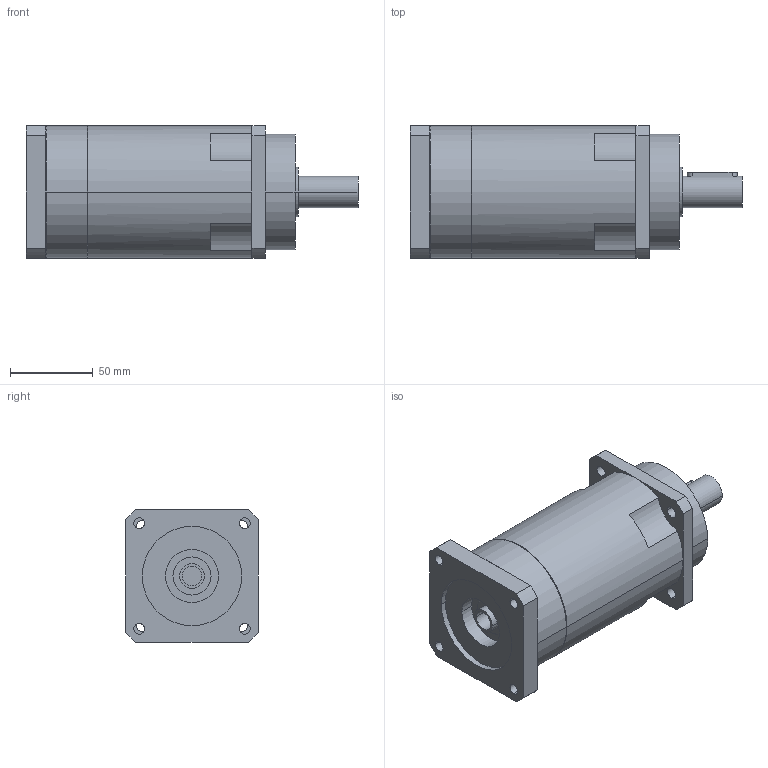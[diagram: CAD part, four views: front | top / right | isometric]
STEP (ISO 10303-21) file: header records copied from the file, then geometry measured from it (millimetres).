
FILE_DESCRIPTION(('CoCreate Modeling STEP Export'),'2;1');
FILE_NAME('GPR100_ig-48-64-80-100-120-144-180-216_19_B5_12_P19.stp','2014-08-26T11:53:35',(''),(''),'CoCreate Modeling STEP processor for AP214 (Solid Model)','CoCreate Modeling 16.00C 25-Feb-2009 (C) Parametric Technology GmbH','');
FILE_SCHEMA(('AUTOMOTIVE_DESIGN { 1 0 10303 214 1 1 1 1 }'));
Length unit declared in the file: millimetre
Products named in the file (2): GPR100_ig-48-64-80-100-120-144-180-216_19_B5_12_P19
Assembly tree (1 placements, depth 2):
  GPR100_ig-48-64-80-100-120-144-180-216_19_B5_12_P19
    GPR100_ig-48-64-80-100-120-144-180-216_19_B5_12_P19
Bounding box: 200.4 x 80 x 80 mm (x, y, z)
Volume: 802152.8 mm3; surface area: 64383.6 mm2
Topology: 1 solids, 1 shells, 101 faces, 285 edges, 195 vertices
Faces by surface type: cylinder 60, plane 35, cone 6
Entity records: 2986 total; most frequent: CARTESIAN_POINT 576, ORIENTED_EDGE 566, DIRECTION 426, EDGE_CURVE 283, VERTEX_POINT 195, AXIS2_PLACEMENT_3D 161, EDGE_LOOP 128, VECTOR 104
